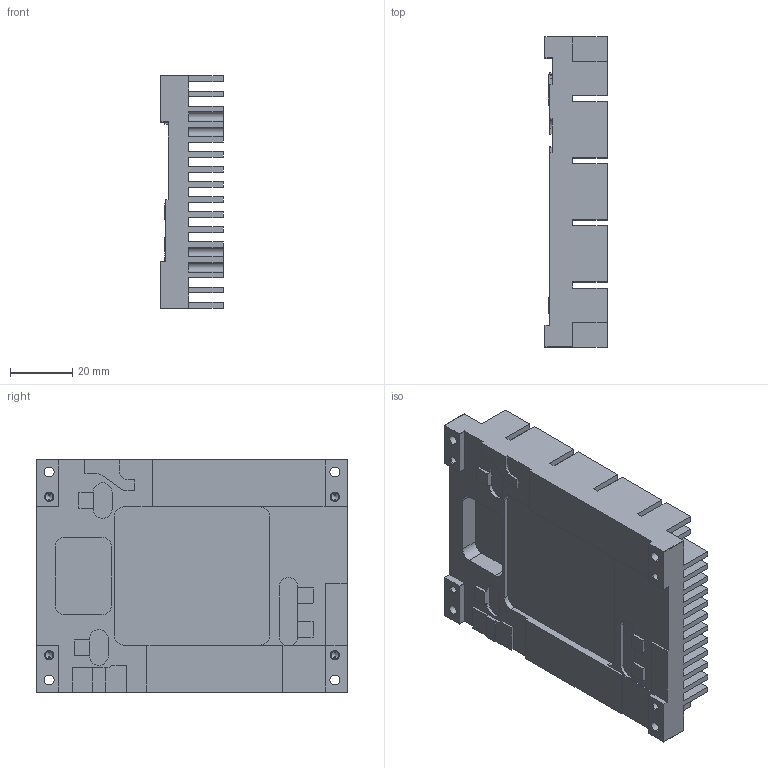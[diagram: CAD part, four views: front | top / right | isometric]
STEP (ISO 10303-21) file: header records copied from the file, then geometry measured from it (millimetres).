
FILE_DESCRIPTION (( 'STEP AP203' ), '1' );
FILE_NAME ('33953.STEP', '2023-10-29T11:57:19', ( '' ), ( '' ), 'SwSTEP 2.0', 'SolidWorks 2018', '' );
FILE_SCHEMA (( 'CONFIG_CONTROL_DESIGN' ));
Length unit declared in the file: millimetre
Products named in the file (1): 33953
Bounding box: 20 x 100 x 75 mm (x, y, z)
Volume: 75715.3 mm3; surface area: 53904.3 mm2
Topology: 1 solids, 1 shells, 609 faces, 1638 edges, 1060 vertices
Faces by surface type: plane 448, cylinder 105, cone 56
Entity records: 18740 total; most frequent: CARTESIAN_POINT 3284, ORIENTED_EDGE 3228, DIRECTION 3077, EDGE_CURVE 1614, VECTOR 1371, LINE 1371, VERTEX_POINT 1060, AXIS2_PLACEMENT_3D 853
